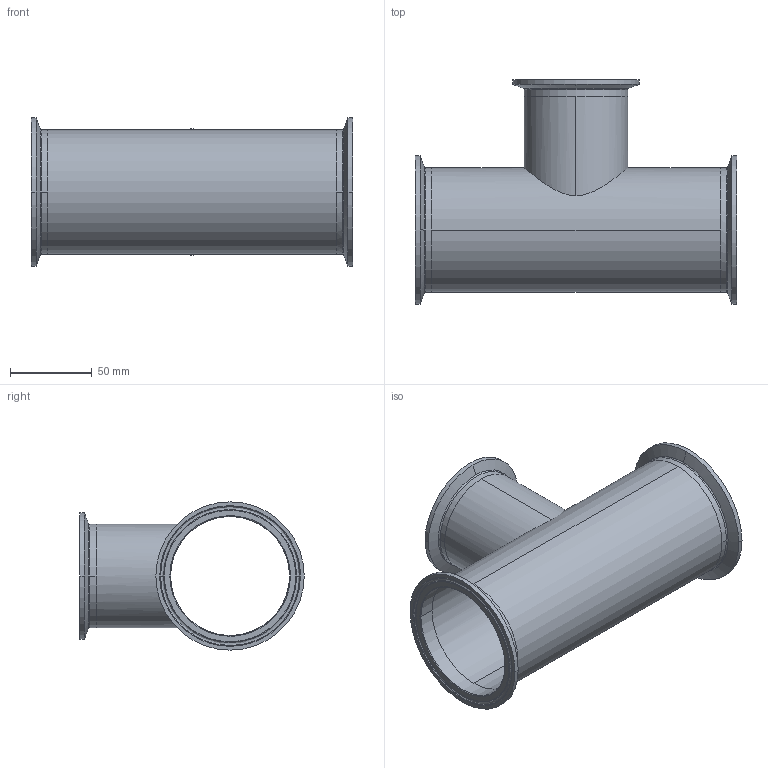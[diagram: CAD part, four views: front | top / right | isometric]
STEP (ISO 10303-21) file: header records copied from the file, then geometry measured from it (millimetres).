
FILE_DESCRIPTION (( 'STEP AP214' ), '1' );
FILE_NAME ('TEG7R6L3.0x2.5-...STEP', '2016-05-24T07:19:56', ( 'eran' ), ( '' ), 'SwSTEP 2.0', 'SolidWorks 2016', '' );
FILE_SCHEMA (( 'AUTOMOTIVE_DESIGN' ));
Length unit declared in the file: millimetre
Products named in the file (1): TEG7R6L3.0x2.5-..
Bounding box: 196.8 x 137.55 x 90.91 mm (x, y, z)
Volume: 111819.1 mm3; surface area: 122915 mm2
Topology: 4 solids, 4 shells, 86 faces, 214 edges, 140 vertices
Faces by surface type: bspline 30, cylinder 26, cone 18, plane 12
Entity records: 5010 total; most frequent: CARTESIAN_POINT 2895, DIRECTION 454, ORIENTED_EDGE 428, EDGE_CURVE 214, AXIS2_PLACEMENT_3D 205, CIRCLE 148, VERTEX_POINT 140, EDGE_LOOP 100
